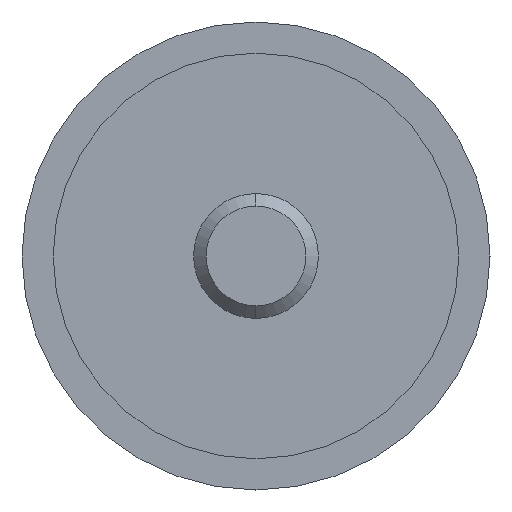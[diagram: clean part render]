
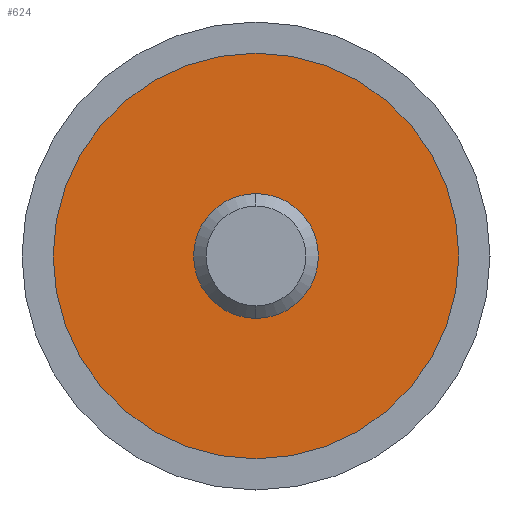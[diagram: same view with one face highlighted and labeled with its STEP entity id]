
A CAD part, left-side view. The second image highlights one B-rep face of the part: STEP entity #624.
In plain terms, the highlighted planar face has unit normal (-1, 0, 0).
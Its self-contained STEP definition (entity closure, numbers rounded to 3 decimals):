
#1 = ORIENTED_EDGE ( 'NONE', *, *, #605, .T. ) ;
#14 = EDGE_CURVE ( 'NONE', #563, #565, #155, .T. ) ;
#55 = CARTESIAN_POINT ( 'NONE',  ( -9.99, 0., 0. ) ) ;
#74 = CARTESIAN_POINT ( 'NONE',  ( -9.99, 0., -13. ) ) ;
#102 = DIRECTION ( 'NONE',  ( 1., 0., 0. ) ) ;
#119 = CARTESIAN_POINT ( 'NONE',  ( -9.99, 0., 0. ) ) ;
#152 = FACE_OUTER_BOUND ( 'NONE', #174, .T. ) ;
#154 = DIRECTION ( 'NONE',  ( 0., 0., 1. ) ) ;
#155 = CIRCLE ( 'NONE', #528, 13. ) ;
#174 = EDGE_LOOP ( 'NONE', ( #453, #1 ) ) ;
#225 = CIRCLE ( 'NONE', #304, 13. ) ;
#270 = AXIS2_PLACEMENT_3D ( 'NONE', #597, #278, #524 ) ;
#278 = DIRECTION ( 'NONE',  ( -1., 0., 0. ) ) ;
#291 = CARTESIAN_POINT ( 'NONE',  ( -9.99, 0., 13. ) ) ;
#304 = AXIS2_PLACEMENT_3D ( 'NONE', #55, #629, #327 ) ;
#320 = CARTESIAN_POINT ( 'NONE',  ( -9.99, 0., -4. ) ) ;
#327 = DIRECTION ( 'NONE',  ( 0., 0., 1. ) ) ;
#331 = DIRECTION ( 'NONE',  ( 0., 0., -1. ) ) ;
#338 = AXIS2_PLACEMENT_3D ( 'NONE', #424, #102, #583 ) ;
#363 = VERTEX_POINT ( 'NONE', #414 ) ;
#364 = FACE_BOUND ( 'NONE', #613, .T. ) ;
#393 = ORIENTED_EDGE ( 'NONE', *, *, #488, .F. ) ;
#402 = CIRCLE ( 'NONE', #270, 4. ) ;
#404 = VERTEX_POINT ( 'NONE', #320 ) ;
#414 = CARTESIAN_POINT ( 'NONE',  ( -9.99, 0., 4. ) ) ;
#424 = CARTESIAN_POINT ( 'NONE',  ( -9.99, 13., 0. ) ) ;
#453 = ORIENTED_EDGE ( 'NONE', *, *, #14, .T. ) ;
#478 = AXIS2_PLACEMENT_3D ( 'NONE', #119, #481, #331 ) ;
#480 = PLANE ( 'NONE',  #338 ) ;
#481 = DIRECTION ( 'NONE',  ( -1., 0., 0. ) ) ;
#488 = EDGE_CURVE ( 'NONE', #363, #404, #623, .T. ) ;
#496 = EDGE_CURVE ( 'NONE', #404, #363, #402, .T. ) ;
#524 = DIRECTION ( 'NONE',  ( 0., 0., -1. ) ) ;
#528 = AXIS2_PLACEMENT_3D ( 'NONE', #631, #577, #154 ) ;
#563 = VERTEX_POINT ( 'NONE', #291 ) ;
#565 = VERTEX_POINT ( 'NONE', #74 ) ;
#577 = DIRECTION ( 'NONE',  ( -1., 0., 0. ) ) ;
#583 = DIRECTION ( 'NONE',  ( 0., 0., -1. ) ) ;
#597 = CARTESIAN_POINT ( 'NONE',  ( -9.99, 0., 0. ) ) ;
#605 = EDGE_CURVE ( 'NONE', #565, #563, #225, .T. ) ;
#613 = EDGE_LOOP ( 'NONE', ( #393, #619 ) ) ;
#619 = ORIENTED_EDGE ( 'NONE', *, *, #496, .F. ) ;
#623 = CIRCLE ( 'NONE', #478, 4. ) ;
#624 = ADVANCED_FACE ( 'NONE', ( #152, #364 ), #480, .F. ) ;
#629 = DIRECTION ( 'NONE',  ( -1., 0., 0. ) ) ;
#631 = CARTESIAN_POINT ( 'NONE',  ( -9.99, 0., 0. ) ) ;
